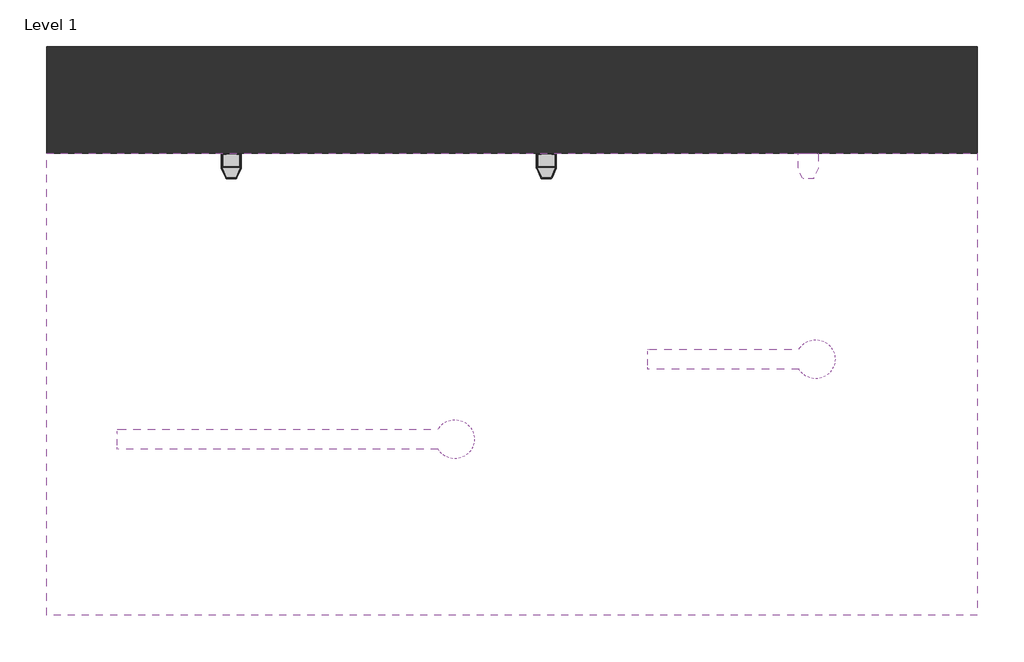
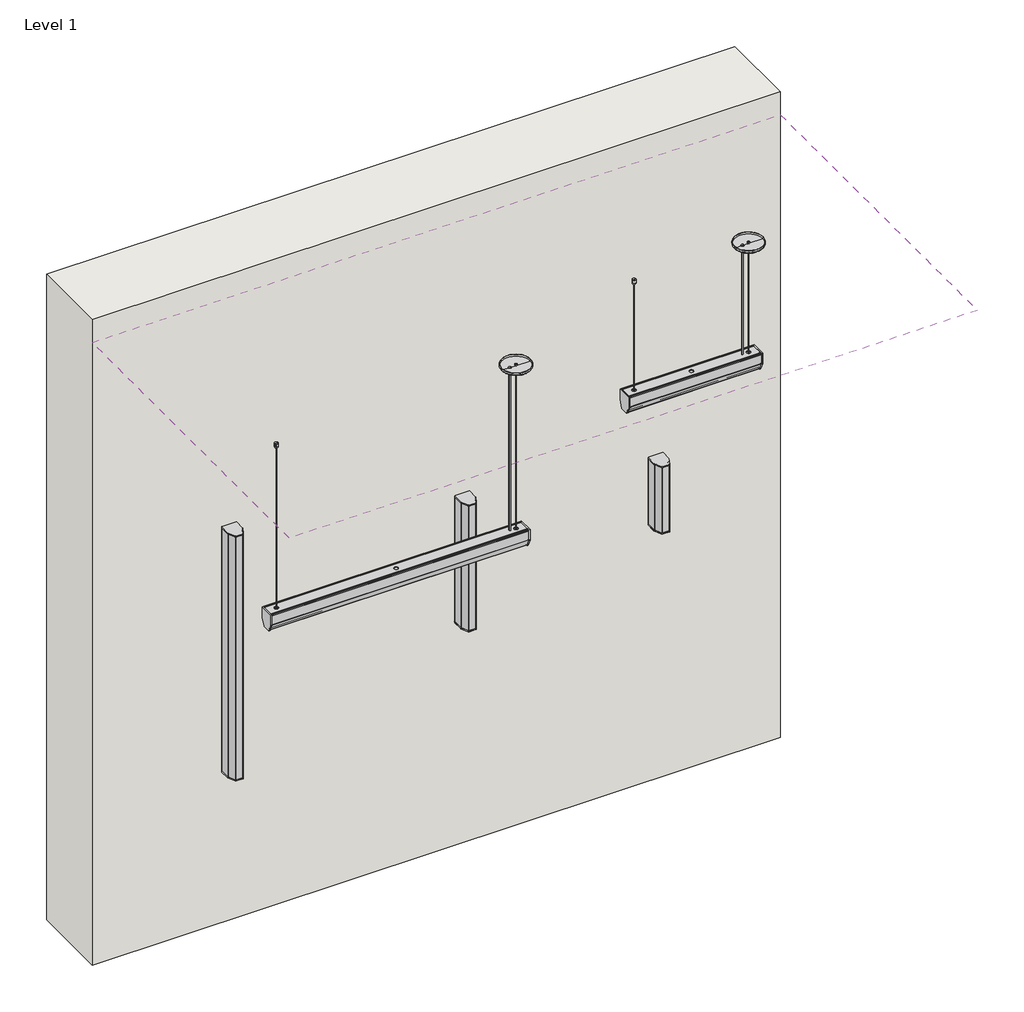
# One storey: 5 light fixtures, 1 covering, 1 wall.
"""IFC4 building model written with IfcOpenShell, lengths in millimetres."""

from ifc_helpers import new_model, si_unit, frame, origin, origin_with_axes, place, context, project, spatial, polyline, outline, extrude, transform, mapped, element, save
from components import rbw_branch_pendant_c553a360, rbw_branch_pendant_bb31d601, rbw_branch_sconce_a8d3748a, rbw_branch_sconce_70b09beb, rbw_branch_sconce_65352383

model = new_model("IFC4")

# Units and contexts
model_context = context("Model", 3, world=origin())
ifc_project = project(units=[si_unit("LENGTHUNIT", "METRE", prefix="MILLI")], contexts=[model_context])

# Site, building, storey
site = spatial("IfcSite", under=ifc_project)
building = spatial("IfcBuilding", under=site)
storey = spatial("IfcBuildingStorey", under=building, Name="Level 1", Elevation=0.0)

# Covering
placement = place(None, origin())
element("IfcCovering", 1, ObjectType="GWB on Mtl. Stud", at=placement, inside=storey, context=model_context, shape_type="SweptSolid", body=[
    extrude(outline(polyline([(-9038.1628893, 12703.6901685), (-9038.1628893, 11179.6901685), (-12110.2909953, 11179.6901685), (-12110.2909953, 12703.6901685), (-9038.1628893, 12703.6901685)])), frame((0.0, 0.0, 2940.05), z_axis=(0.0, 0.0, 1.0), x_axis=(1.0, 0.0, 0.0)), (0.0, 0.0, 1.0), 107.95),
])

# Light fixtures
rbw_branch_pendant_shape = rbw_branch_pendant_c553a360(model_context)
element("IfcLightFixture", 2, ObjectType="RBW-Branch_Pendant : BREP-L", at=placement, inside=storey, context=model_context, shape_type="MappedRepresentation", body=[
    mapped(rbw_branch_pendant_shape, transform((-11297.850769, 11760.2218505, 501.65), x_axis=(1.0, 0.0, 0.0), y_axis=(0.0, 1.0, 0.0), z_axis=(0.0, 0.0, 1.0))),
])
rbw_branch_pendant_2_shape = rbw_branch_pendant_bb31d601(model_context)
element("IfcLightFixture", 3, ObjectType="RBW-Branch_Pendant : BREP-M", at=placement, inside=storey, context=model_context, shape_type="MappedRepresentation", body=[
    mapped(rbw_branch_pendant_2_shape, transform((-9827.7787568, 12024.173909, 501.65), x_axis=(1.0, 0.0, 0.0), y_axis=(0.0, 1.0, 0.0), z_axis=(0.0, 0.0, 1.0))),
])
rbw_branch_sconce_shape = rbw_branch_sconce_a8d3748a(model_context)
element("IfcLightFixture", 4, ObjectType="RBW-Branch_Sconce : BRES-L", at=placement, inside=storey, context=model_context, shape_type="MappedRepresentation", body=[
    mapped(rbw_branch_sconce_shape, transform((-11500.6909953, 12879.9026685, -558.238951), x_axis=(-1.0, 0.0, 0.0), y_axis=(0.0, -1.0, 0.0), z_axis=(0.0, 0.0, 1.0))),
])
rbw_branch_sconce_2_shape = rbw_branch_sconce_70b09beb(model_context)
element("IfcLightFixture", 5, ObjectType="RBW-Branch_Sconce : BRES-M", at=placement, inside=storey, context=model_context, shape_type="MappedRepresentation", body=[
    mapped(rbw_branch_sconce_2_shape, transform((-10460.5628893, 12879.9026685, -903.2637896), x_axis=(-1.0, 0.0, 0.0), y_axis=(0.0, -1.0, 0.0), z_axis=(0.0, 0.0, 1.0))),
])
rbw_branch_sconce_3_shape = rbw_branch_sconce_65352383(model_context)
element("IfcLightFixture", 6, ObjectType="RBW-Branch_Sconce : BRES-S", at=placement, inside=storey, context=model_context, shape_type="MappedRepresentation", body=[
    mapped(rbw_branch_sconce_3_shape, transform((-9596.9628893, 12879.9026685, -744.6519805), x_axis=(-1.0, 0.0, 0.0), y_axis=(0.0, -1.0, 0.0), z_axis=(0.0, 0.0, 1.0))),
])

# Wall
element("IfcWall", 7, ObjectType="Exterior - Brick on Mtl. Stud", at=placement, inside=storey, context=model_context, shape_type="SweptSolid", body=[
    extrude(outline(polyline([(-9038.1628893, 12703.6901685), (-12110.2909953, 12703.6901685), (-12110.2909953, 13056.1151685), (-9038.1628893, 13056.1151685), (-9038.1628893, 12703.6901685)])), origin_with_axes(), (0.0, 0.0, 1.0), 3048.0),
])

save(model, "model.ifc")
